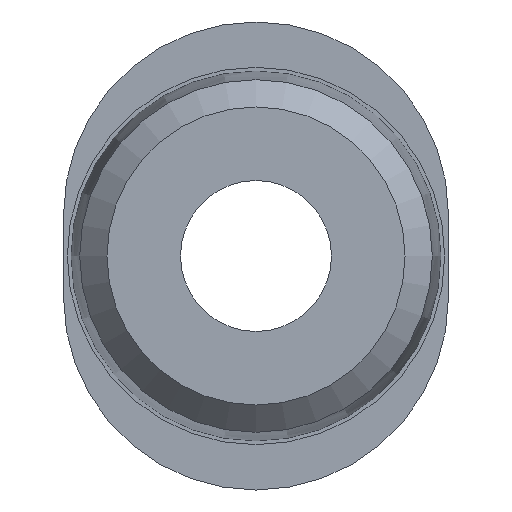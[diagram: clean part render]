
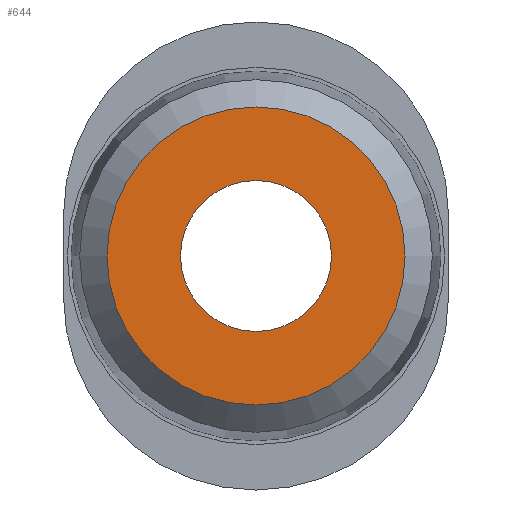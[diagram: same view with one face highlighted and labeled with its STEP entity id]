
A CAD part, front view. The second image highlights one B-rep face of the part: STEP entity #644.
In plain terms, the highlighted planar face has unit normal (0, -1, 0).
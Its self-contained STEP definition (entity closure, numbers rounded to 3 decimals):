
#188=CARTESIAN_POINT('',(-2.0,-17.4,0.0));
#189=VERTEX_POINT('',#188);
#190=CARTESIAN_POINT('',(0.0,-17.4,0.0));
#191=DIRECTION('',(0.0,1.0,0.0));
#192=DIRECTION('',(-1.0,0.0,0.0));
#193=AXIS2_PLACEMENT_3D('',#190,#191,#192);
#194=CIRCLE('',#193,2.0);
#195=EDGE_CURVE('',#189,#189,#194,.T.);
#625=CARTESIAN_POINT('',(-1.975,-17.4,0.0));
#626=DIRECTION('',(0.0,-1.0,0.0));
#627=DIRECTION('',(0.0,0.0,-1.0));
#628=AXIS2_PLACEMENT_3D('',#625,#626,#627);
#629=PLANE('',#628);
#630=CARTESIAN_POINT('',(-3.95,-17.4,0.0));
#631=VERTEX_POINT('',#630);
#632=CARTESIAN_POINT('',(0.0,-17.4,0.0));
#633=DIRECTION('',(0.0,1.0,0.0));
#634=DIRECTION('',(-1.0,0.0,0.0));
#635=AXIS2_PLACEMENT_3D('',#632,#633,#634);
#636=CIRCLE('',#635,3.95);
#637=EDGE_CURVE('',#631,#631,#636,.T.);
#638=ORIENTED_EDGE('',*,*,#637,.F.);
#639=EDGE_LOOP('',(#638));
#640=FACE_OUTER_BOUND('',#639,.T.);
#641=ORIENTED_EDGE('',*,*,#195,.T.);
#642=EDGE_LOOP('',(#641));
#643=FACE_BOUND('',#642,.T.);
#644=ADVANCED_FACE('',(#640,#643),#629,.T.);
